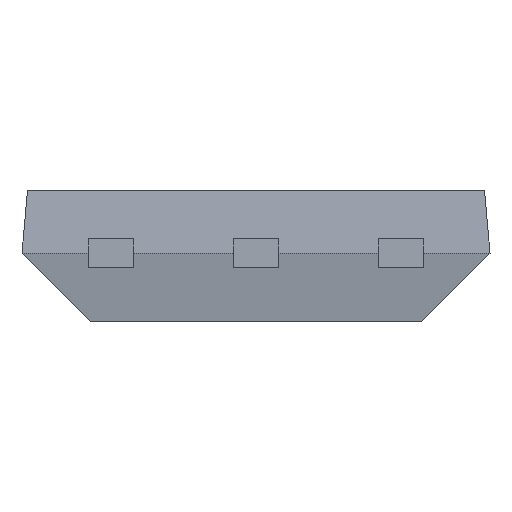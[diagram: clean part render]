
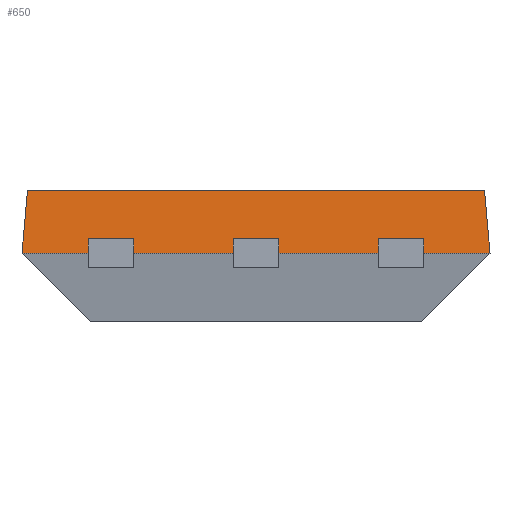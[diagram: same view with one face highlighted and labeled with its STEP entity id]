
A CAD part, front view. The second image highlights one B-rep face of the part: STEP entity #650.
In plain terms, the highlighted planar face has unit normal (0, -0.996, 0.087).
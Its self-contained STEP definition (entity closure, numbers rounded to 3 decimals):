
#7 = DIRECTION ( 'NONE',  ( -0.087, 0.087, 0.992 ) ) ;
#22 = CARTESIAN_POINT ( 'NONE',  ( -2.05, -1.5, 0.6 ) ) ;
#66 = EDGE_CURVE ( 'NONE', #513, #483, #200, .T. ) ;
#71 = CARTESIAN_POINT ( 'NONE',  ( -2.002, -1.452, 1.15 ) ) ;
#120 = CARTESIAN_POINT ( 'NONE',  ( 2.05, -1.5, 0.6 ) ) ;
#200 = LINE ( 'NONE', #220, #732 ) ;
#205 = CARTESIAN_POINT ( 'NONE',  ( 2.027, -1.477, 0.859 ) ) ;
#214 = LINE ( 'NONE', #867, #383 ) ;
#216 = LINE ( 'NONE', #205, #217 ) ;
#217 = VECTOR ( 'NONE', #7, 1000. ) ;
#220 = CARTESIAN_POINT ( 'NONE',  ( -2.05, -1.452, 1.15 ) ) ;
#222 = ORIENTED_EDGE ( 'NONE', *, *, #544, .T. ) ;
#243 = VECTOR ( 'NONE', #836, 1000. ) ;
#249 = CARTESIAN_POINT ( 'NONE',  ( -2.05, -1.5, 0.6 ) ) ;
#299 = DIRECTION ( 'NONE',  ( 0., 0.996, -0.087 ) ) ;
#343 = VERTEX_POINT ( 'NONE', #120 ) ;
#362 = VERTEX_POINT ( 'NONE', #249 ) ;
#383 = VECTOR ( 'NONE', #484, 1000. ) ;
#384 = ORIENTED_EDGE ( 'NONE', *, *, #761, .F. ) ;
#404 = ORIENTED_EDGE ( 'NONE', *, *, #848, .T. ) ;
#428 = PLANE ( 'NONE',  #703 ) ;
#453 = LINE ( 'NONE', #707, #243 ) ;
#475 = CARTESIAN_POINT ( 'NONE',  ( 2.002, -1.452, 1.15 ) ) ;
#483 = VERTEX_POINT ( 'NONE', #475 ) ;
#484 = DIRECTION ( 'NONE',  ( 1., 0., 0. ) ) ;
#488 = DIRECTION ( 'NONE',  ( 1., 0., 0. ) ) ;
#513 = VERTEX_POINT ( 'NONE', #71 ) ;
#520 = EDGE_LOOP ( 'NONE', ( #404, #222, #664, #384 ) ) ;
#544 = EDGE_CURVE ( 'NONE', #343, #483, #216, .T. ) ;
#650 = ADVANCED_FACE ( 'NONE', ( #824 ), #428, .F. ) ;
#664 = ORIENTED_EDGE ( 'NONE', *, *, #66, .F. ) ;
#703 = AXIS2_PLACEMENT_3D ( 'NONE', #22, #299, #756 ) ;
#707 = CARTESIAN_POINT ( 'NONE',  ( -2.027, -1.477, 0.859 ) ) ;
#732 = VECTOR ( 'NONE', #488, 1000. ) ;
#756 = DIRECTION ( 'NONE',  ( 0., 0.087, 0.996 ) ) ;
#761 = EDGE_CURVE ( 'NONE', #362, #513, #453, .T. ) ;
#824 = FACE_OUTER_BOUND ( 'NONE', #520, .T. ) ;
#836 = DIRECTION ( 'NONE',  ( 0.087, 0.087, 0.992 ) ) ;
#848 = EDGE_CURVE ( 'NONE', #362, #343, #214, .T. ) ;
#867 = CARTESIAN_POINT ( 'NONE',  ( -2.05, -1.5, 0.6 ) ) ;
